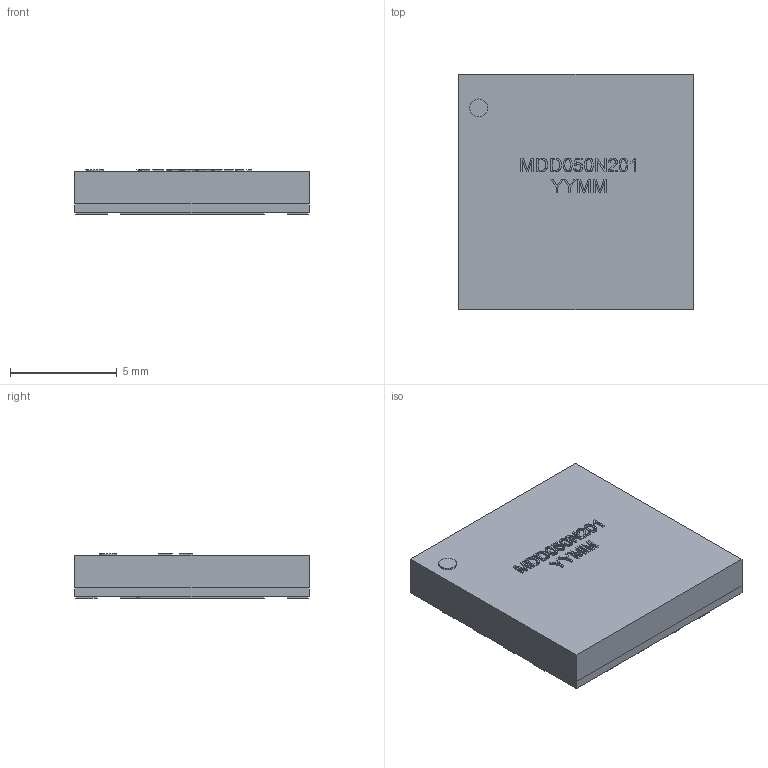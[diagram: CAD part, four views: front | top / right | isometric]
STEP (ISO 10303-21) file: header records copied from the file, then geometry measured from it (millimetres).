
FILE_DESCRIPTION(/* description */ (''),/* implementation_level */ '2;1');
FILE_NAME(/* name */ 'Monzite_MDD050N201Q16A.step',/* time_stamp */ '2025-11-05T08:34:16-05:00',/* author */ (''),/* organization */ (''),/* preprocessor_version */ 'ST-DEVELOPER v20.1',/* originating_system */ 'Autodesk Translation Framework v14.17.0.0',/* authorisation */ '');
FILE_SCHEMA (('AUTOMOTIVE_DESIGN { 1 0 10303 214 3 1 1 }'));
Length unit declared in the file: inch
Products named in the file (6): Monzite_MDD050N201Q16A; Component1; Component2; Component3; Component4; Component5
Assembly tree (5 placements, depth 2):
  Monzite_MDD050N201Q16A
    Component1
    Component2
    Component3
    Component4
    Component5
Bounding box: 10.99 x 11.01 x 2.08 mm (x, y, z)
Volume: 236.8 mm3; surface area: 667 mm2
Topology: 34 solids, 34 shells, 380 faces, 936 edges, 624 vertices
Faces by surface type: plane 240, bspline 139, cylinder 1
Full cylindrical faces by diameter (mm): 0.835 x1
Entity records: 12578 total; most frequent: CARTESIAN_POINT 4315, ORIENTED_EDGE 1872, DIRECTION 1166, EDGE_CURVE 936, LINE 656, VECTOR 656, VERTEX_POINT 624, EDGE_LOOP 390
